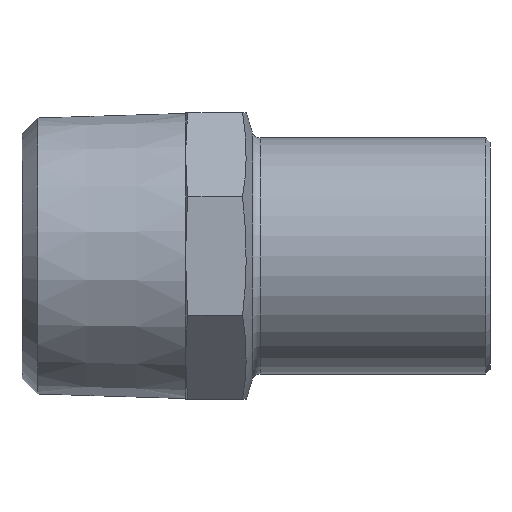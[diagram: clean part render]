
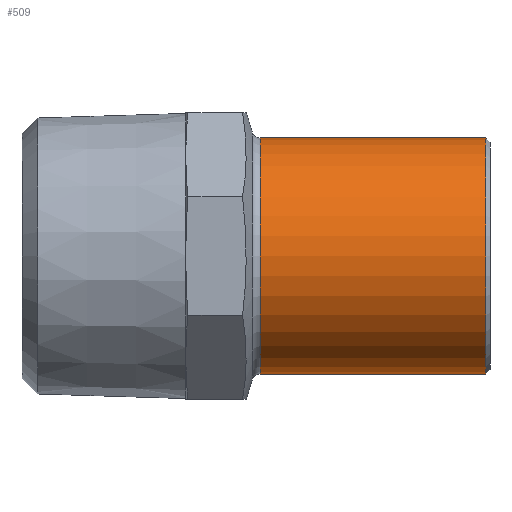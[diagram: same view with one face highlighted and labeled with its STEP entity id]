
A CAD part, left-side view. The second image highlights one B-rep face of the part: STEP entity #509.
In plain terms, the highlighted cylindrical face has radius 14 mm (diameter 28 mm), a partial arc.
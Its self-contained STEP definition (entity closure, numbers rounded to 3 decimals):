
#9 = LINE ( 'NONE', #381, #285 ) ;
#55 = EDGE_CURVE ( 'NONE', #908, #1042, #243, .T. ) ;
#79 = EDGE_CURVE ( 'NONE', #970, #806, #274, .T. ) ;
#93 = CARTESIAN_POINT ( 'NONE',  ( 0., 27.26, -14. ) ) ;
#96 = EDGE_CURVE ( 'NONE', #806, #1042, #9, .T. ) ;
#132 = ORIENTED_EDGE ( 'NONE', *, *, #55, .F. ) ;
#155 = CARTESIAN_POINT ( 'NONE',  ( 0., 0.5, -14. ) ) ;
#194 = DIRECTION ( 'NONE',  ( 0., -1., 0. ) ) ;
#239 = DIRECTION ( 'NONE',  ( 0., 0., -1. ) ) ;
#243 = CIRCLE ( 'NONE', #836, 14. ) ;
#252 = ORIENTED_EDGE ( 'NONE', *, *, #96, .T. ) ;
#274 = CIRCLE ( 'NONE', #899, 14. ) ;
#285 = VECTOR ( 'NONE', #194, 1000. ) ;
#290 = CARTESIAN_POINT ( 'NONE',  ( 0., 27.26, 0. ) ) ;
#320 = DIRECTION ( 'NONE',  ( 0., -1., 0. ) ) ;
#381 = CARTESIAN_POINT ( 'NONE',  ( 0., -17.811, -14. ) ) ;
#422 = ORIENTED_EDGE ( 'NONE', *, *, #79, .T. ) ;
#443 = FACE_OUTER_BOUND ( 'NONE', #961, .T. ) ;
#507 = CARTESIAN_POINT ( 'NONE',  ( 0., 27.26, 14. ) ) ;
#509 = ADVANCED_FACE ( 'NONE', ( #443 ), #616, .T. ) ;
#516 = DIRECTION ( 'NONE',  ( 0., -1., 0. ) ) ;
#526 = CARTESIAN_POINT ( 'NONE',  ( 0., -17.811, 0. ) ) ;
#548 = CARTESIAN_POINT ( 'NONE',  ( 0., 0.5, 14. ) ) ;
#572 = CARTESIAN_POINT ( 'NONE',  ( 0., -17.811, 14. ) ) ;
#616 = CYLINDRICAL_SURFACE ( 'NONE', #985, 14. ) ;
#635 = LINE ( 'NONE', #572, #772 ) ;
#724 = DIRECTION ( 'NONE',  ( 0., 0., -1. ) ) ;
#772 = VECTOR ( 'NONE', #516, 1000. ) ;
#806 = VERTEX_POINT ( 'NONE', #93 ) ;
#836 = AXIS2_PLACEMENT_3D ( 'NONE', #1058, #1035, #1020 ) ;
#899 = AXIS2_PLACEMENT_3D ( 'NONE', #290, #320, #239 ) ;
#906 = ORIENTED_EDGE ( 'NONE', *, *, #918, .F. ) ;
#908 = VERTEX_POINT ( 'NONE', #548 ) ;
#918 = EDGE_CURVE ( 'NONE', #970, #908, #635, .T. ) ;
#961 = EDGE_LOOP ( 'NONE', ( #906, #422, #252, #132 ) ) ;
#970 = VERTEX_POINT ( 'NONE', #507 ) ;
#985 = AXIS2_PLACEMENT_3D ( 'NONE', #526, #1036, #724 ) ;
#1020 = DIRECTION ( 'NONE',  ( 0., 0., -1. ) ) ;
#1035 = DIRECTION ( 'NONE',  ( 0., -1., 0. ) ) ;
#1036 = DIRECTION ( 'NONE',  ( 0., -1., 0. ) ) ;
#1042 = VERTEX_POINT ( 'NONE', #155 ) ;
#1058 = CARTESIAN_POINT ( 'NONE',  ( 0., 0.5, 0. ) ) ;
